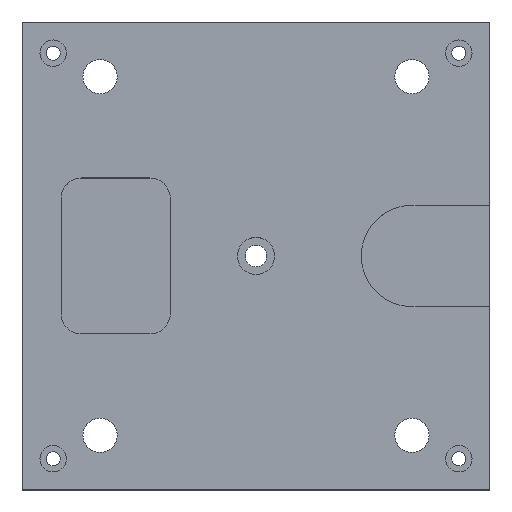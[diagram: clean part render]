
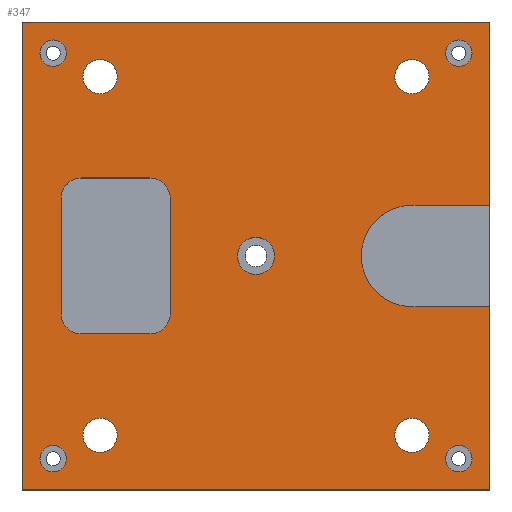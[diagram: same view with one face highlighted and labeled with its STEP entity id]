
A CAD part, top view. The second image highlights one B-rep face of the part: STEP entity #347.
In plain terms, the highlighted planar face has unit normal (0, 0, 1).
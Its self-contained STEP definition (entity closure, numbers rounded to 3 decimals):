
#347=ADVANCED_FACE('',(#452,#453,#454,#455,#456,#457,#458,#459,#460,#461,
#462),#385,.T.);
#385=PLANE('',#967);
#413=CIRCLE('',#953,13.);
#414=CIRCLE('',#954,13.);
#415=CIRCLE('',#955,13.);
#416=CIRCLE('',#956,13.);
#417=CIRCLE('',#957,32.5);
#418=CIRCLE('',#958,8.5);
#419=CIRCLE('',#959,8.5);
#420=CIRCLE('',#960,8.5);
#421=CIRCLE('',#961,8.5);
#422=CIRCLE('',#962,11.);
#423=CIRCLE('',#963,11.);
#424=CIRCLE('',#964,11.);
#425=CIRCLE('',#965,11.);
#426=CIRCLE('',#966,11.875);
#452=FACE_BOUND('',#511,.T.);
#453=FACE_BOUND('',#512,.T.);
#454=FACE_BOUND('',#513,.T.);
#455=FACE_BOUND('',#514,.T.);
#456=FACE_BOUND('',#515,.T.);
#457=FACE_BOUND('',#516,.T.);
#458=FACE_BOUND('',#517,.T.);
#459=FACE_BOUND('',#518,.T.);
#460=FACE_BOUND('',#519,.T.);
#461=FACE_BOUND('',#520,.T.);
#462=FACE_BOUND('',#521,.T.);
#511=EDGE_LOOP('',(#590,#591,#592,#593,#594,#595,#596,#597));
#512=EDGE_LOOP('',(#598,#599,#600,#601,#602,#603,#604,#605));
#513=EDGE_LOOP('',(#606));
#514=EDGE_LOOP('',(#607));
#515=EDGE_LOOP('',(#608));
#516=EDGE_LOOP('',(#609));
#517=EDGE_LOOP('',(#610));
#518=EDGE_LOOP('',(#611));
#519=EDGE_LOOP('',(#612));
#520=EDGE_LOOP('',(#613));
#521=EDGE_LOOP('',(#614));
#590=ORIENTED_EDGE('',*,*,#802,.F.);
#591=ORIENTED_EDGE('',*,*,#803,.T.);
#592=ORIENTED_EDGE('',*,*,#804,.F.);
#593=ORIENTED_EDGE('',*,*,#805,.T.);
#594=ORIENTED_EDGE('',*,*,#806,.F.);
#595=ORIENTED_EDGE('',*,*,#807,.T.);
#596=ORIENTED_EDGE('',*,*,#808,.F.);
#597=ORIENTED_EDGE('',*,*,#809,.T.);
#598=ORIENTED_EDGE('',*,*,#810,.F.);
#599=ORIENTED_EDGE('',*,*,#811,.T.);
#600=ORIENTED_EDGE('',*,*,#812,.T.);
#601=ORIENTED_EDGE('',*,*,#813,.T.);
#602=ORIENTED_EDGE('',*,*,#814,.T.);
#603=ORIENTED_EDGE('',*,*,#815,.T.);
#604=ORIENTED_EDGE('',*,*,#816,.F.);
#605=ORIENTED_EDGE('',*,*,#817,.F.);
#606=ORIENTED_EDGE('',*,*,#818,.T.);
#607=ORIENTED_EDGE('',*,*,#819,.T.);
#608=ORIENTED_EDGE('',*,*,#820,.T.);
#609=ORIENTED_EDGE('',*,*,#821,.T.);
#610=ORIENTED_EDGE('',*,*,#822,.F.);
#611=ORIENTED_EDGE('',*,*,#823,.F.);
#612=ORIENTED_EDGE('',*,*,#824,.F.);
#613=ORIENTED_EDGE('',*,*,#825,.F.);
#614=ORIENTED_EDGE('',*,*,#826,.T.);
#742=VERTEX_POINT('',#1242);
#743=VERTEX_POINT('',#1243);
#744=VERTEX_POINT('',#1245);
#745=VERTEX_POINT('',#1247);
#746=VERTEX_POINT('',#1249);
#747=VERTEX_POINT('',#1251);
#748=VERTEX_POINT('',#1253);
#749=VERTEX_POINT('',#1255);
#750=VERTEX_POINT('',#1258);
#751=VERTEX_POINT('',#1259);
#752=VERTEX_POINT('',#1261);
#753=VERTEX_POINT('',#1263);
#754=VERTEX_POINT('',#1265);
#755=VERTEX_POINT('',#1267);
#756=VERTEX_POINT('',#1269);
#757=VERTEX_POINT('',#1271);
#758=VERTEX_POINT('',#1274);
#759=VERTEX_POINT('',#1276);
#760=VERTEX_POINT('',#1278);
#761=VERTEX_POINT('',#1280);
#762=VERTEX_POINT('',#1282);
#763=VERTEX_POINT('',#1284);
#764=VERTEX_POINT('',#1286);
#765=VERTEX_POINT('',#1288);
#766=VERTEX_POINT('',#1290);
#802=EDGE_CURVE('',#742,#743,#867,.T.);
#803=EDGE_CURVE('',#742,#744,#413,.T.);
#804=EDGE_CURVE('',#745,#744,#868,.T.);
#805=EDGE_CURVE('',#745,#746,#414,.T.);
#806=EDGE_CURVE('',#747,#746,#869,.T.);
#807=EDGE_CURVE('',#747,#748,#415,.T.);
#808=EDGE_CURVE('',#749,#748,#870,.T.);
#809=EDGE_CURVE('',#749,#743,#416,.T.);
#810=EDGE_CURVE('',#750,#751,#871,.T.);
#811=EDGE_CURVE('',#750,#752,#872,.T.);
#812=EDGE_CURVE('',#752,#753,#873,.T.);
#813=EDGE_CURVE('',#753,#754,#874,.T.);
#814=EDGE_CURVE('',#754,#755,#875,.T.);
#815=EDGE_CURVE('',#755,#756,#876,.T.);
#816=EDGE_CURVE('',#757,#756,#877,.T.);
#817=EDGE_CURVE('',#751,#757,#417,.T.);
#818=EDGE_CURVE('',#758,#758,#418,.T.);
#819=EDGE_CURVE('',#759,#759,#419,.T.);
#820=EDGE_CURVE('',#760,#760,#420,.T.);
#821=EDGE_CURVE('',#761,#761,#421,.T.);
#822=EDGE_CURVE('',#762,#762,#422,.T.);
#823=EDGE_CURVE('',#763,#763,#423,.T.);
#824=EDGE_CURVE('',#764,#764,#424,.T.);
#825=EDGE_CURVE('',#765,#765,#425,.T.);
#826=EDGE_CURVE('',#766,#766,#426,.T.);
#867=LINE('',#1241,#905);
#868=LINE('',#1246,#906);
#869=LINE('',#1250,#907);
#870=LINE('',#1254,#908);
#871=LINE('',#1257,#909);
#872=LINE('',#1260,#910);
#873=LINE('',#1262,#911);
#874=LINE('',#1264,#912);
#875=LINE('',#1266,#913);
#876=LINE('',#1268,#914);
#877=LINE('',#1270,#915);
#905=VECTOR('',#1048,1.);
#906=VECTOR('',#1051,1.);
#907=VECTOR('',#1054,1.);
#908=VECTOR('',#1057,1.);
#909=VECTOR('',#1060,1.);
#910=VECTOR('',#1061,1.);
#911=VECTOR('',#1062,1.);
#912=VECTOR('',#1063,1.);
#913=VECTOR('',#1064,1.);
#914=VECTOR('',#1065,1.);
#915=VECTOR('',#1066,1.);
#953=AXIS2_PLACEMENT_3D('',#1244,#1049,#1050);
#954=AXIS2_PLACEMENT_3D('',#1248,#1052,#1053);
#955=AXIS2_PLACEMENT_3D('',#1252,#1055,#1056);
#956=AXIS2_PLACEMENT_3D('',#1256,#1058,#1059);
#957=AXIS2_PLACEMENT_3D('',#1272,#1067,#1068);
#958=AXIS2_PLACEMENT_3D('',#1273,#1069,#1070);
#959=AXIS2_PLACEMENT_3D('',#1275,#1071,#1072);
#960=AXIS2_PLACEMENT_3D('',#1277,#1073,#1074);
#961=AXIS2_PLACEMENT_3D('',#1279,#1075,#1076);
#962=AXIS2_PLACEMENT_3D('',#1281,#1077,#1078);
#963=AXIS2_PLACEMENT_3D('',#1283,#1079,#1080);
#964=AXIS2_PLACEMENT_3D('',#1285,#1081,#1082);
#965=AXIS2_PLACEMENT_3D('',#1287,#1083,#1084);
#966=AXIS2_PLACEMENT_3D('',#1289,#1085,#1086);
#967=AXIS2_PLACEMENT_3D('',#1291,#1087,#1088);
#1048=DIRECTION('',(-1.,0.,0.));
#1049=DIRECTION('',(0.,0.,-1.));
#1050=DIRECTION('',(1.,0.,0.));
#1051=DIRECTION('',(0.,1.,0.));
#1052=DIRECTION('',(0.,0.,-1.));
#1053=DIRECTION('',(1.,0.,0.));
#1054=DIRECTION('',(1.,0.,0.));
#1055=DIRECTION('',(0.,0.,-1.));
#1056=DIRECTION('',(1.,0.,0.));
#1057=DIRECTION('',(0.,-1.,0.));
#1058=DIRECTION('',(0.,0.,-1.));
#1059=DIRECTION('',(1.,0.,0.));
#1060=DIRECTION('',(-1.,0.,0.));
#1061=DIRECTION('',(0.,1.,0.));
#1062=DIRECTION('',(-1.,0.,0.));
#1063=DIRECTION('',(0.,-1.,0.));
#1064=DIRECTION('',(1.,0.,0.));
#1065=DIRECTION('',(0.,1.,0.));
#1066=DIRECTION('',(1.,0.,0.));
#1067=DIRECTION('',(0.,0.,1.));
#1068=DIRECTION('',(1.,0.,0.));
#1069=DIRECTION('',(0.,0.,-1.));
#1070=DIRECTION('',(0.,-1.,0.));
#1071=DIRECTION('',(0.,0.,-1.));
#1072=DIRECTION('',(0.,-1.,0.));
#1073=DIRECTION('',(0.,0.,-1.));
#1074=DIRECTION('',(0.,-1.,0.));
#1075=DIRECTION('',(0.,0.,-1.));
#1076=DIRECTION('',(0.,-1.,0.));
#1077=DIRECTION('',(0.,0.,1.));
#1078=DIRECTION('',(0.,1.,0.));
#1079=DIRECTION('',(0.,0.,1.));
#1080=DIRECTION('',(0.,1.,0.));
#1081=DIRECTION('',(0.,0.,1.));
#1082=DIRECTION('',(0.,1.,0.));
#1083=DIRECTION('',(0.,0.,1.));
#1084=DIRECTION('',(0.,1.,0.));
#1085=DIRECTION('',(0.,0.,-1.));
#1086=DIRECTION('',(0.,1.,0.));
#1087=DIRECTION('',(0.,0.,1.));
#1088=DIRECTION('',(1.,0.,0.));
#1241=CARTESIAN_POINT('',(-55.,50.,0.));
#1242=CARTESIAN_POINT('',(-68.,50.,0.));
#1243=CARTESIAN_POINT('',(-112.,50.,0.));
#1244=CARTESIAN_POINT('',(-68.,37.,0.));
#1245=CARTESIAN_POINT('',(-55.,37.,0.));
#1246=CARTESIAN_POINT('',(-55.,-50.,0.));
#1247=CARTESIAN_POINT('',(-55.,-37.,0.));
#1248=CARTESIAN_POINT('',(-68.,-37.,0.));
#1249=CARTESIAN_POINT('',(-68.,-50.,0.));
#1250=CARTESIAN_POINT('',(-125.,-50.,0.));
#1251=CARTESIAN_POINT('',(-112.,-50.,0.));
#1252=CARTESIAN_POINT('',(-112.,-37.,0.));
#1253=CARTESIAN_POINT('',(-125.,-37.,0.));
#1254=CARTESIAN_POINT('',(-125.,50.,0.));
#1255=CARTESIAN_POINT('',(-125.,37.,0.));
#1256=CARTESIAN_POINT('',(-112.,37.,0.));
#1257=CARTESIAN_POINT('',(189.912,32.5,0.));
#1258=CARTESIAN_POINT('',(150.,32.5,0.));
#1259=CARTESIAN_POINT('',(100.,32.5,0.));
#1260=CARTESIAN_POINT('',(150.,-150.,0.));
#1261=CARTESIAN_POINT('',(150.,150.,0.));
#1262=CARTESIAN_POINT('',(150.,150.,0.));
#1263=CARTESIAN_POINT('',(-150.,150.,0.));
#1264=CARTESIAN_POINT('',(-150.,150.,0.));
#1265=CARTESIAN_POINT('',(-150.,-150.,0.));
#1266=CARTESIAN_POINT('',(-150.,-150.,0.));
#1267=CARTESIAN_POINT('',(150.,-150.,0.));
#1268=CARTESIAN_POINT('',(150.,-150.,0.));
#1269=CARTESIAN_POINT('',(150.,-32.5,0.));
#1270=CARTESIAN_POINT('',(100.,-32.5,0.));
#1271=CARTESIAN_POINT('',(100.,-32.5,0.));
#1272=CARTESIAN_POINT('',(100.,0.,0.));
#1273=CARTESIAN_POINT('',(-130.,130.,0.));
#1274=CARTESIAN_POINT('',(-130.,121.5,0.));
#1275=CARTESIAN_POINT('',(130.,130.,0.));
#1276=CARTESIAN_POINT('',(130.,121.5,0.));
#1277=CARTESIAN_POINT('',(130.,-130.,0.));
#1278=CARTESIAN_POINT('',(130.,-138.5,0.));
#1279=CARTESIAN_POINT('',(-130.,-130.,0.));
#1280=CARTESIAN_POINT('',(-130.,-138.5,0.));
#1281=CARTESIAN_POINT('',(-100.,115.,0.));
#1282=CARTESIAN_POINT('',(-100.,126.,0.));
#1283=CARTESIAN_POINT('',(100.,115.,0.));
#1284=CARTESIAN_POINT('',(100.,126.,0.));
#1285=CARTESIAN_POINT('',(100.,-115.,0.));
#1286=CARTESIAN_POINT('',(100.,-104.,0.));
#1287=CARTESIAN_POINT('',(-100.,-115.,0.));
#1288=CARTESIAN_POINT('',(-100.,-104.,0.));
#1289=CARTESIAN_POINT('',(0.,0.,0.));
#1290=CARTESIAN_POINT('',(0.,11.875,0.));
#1291=CARTESIAN_POINT('',(-150.,150.,0.));
